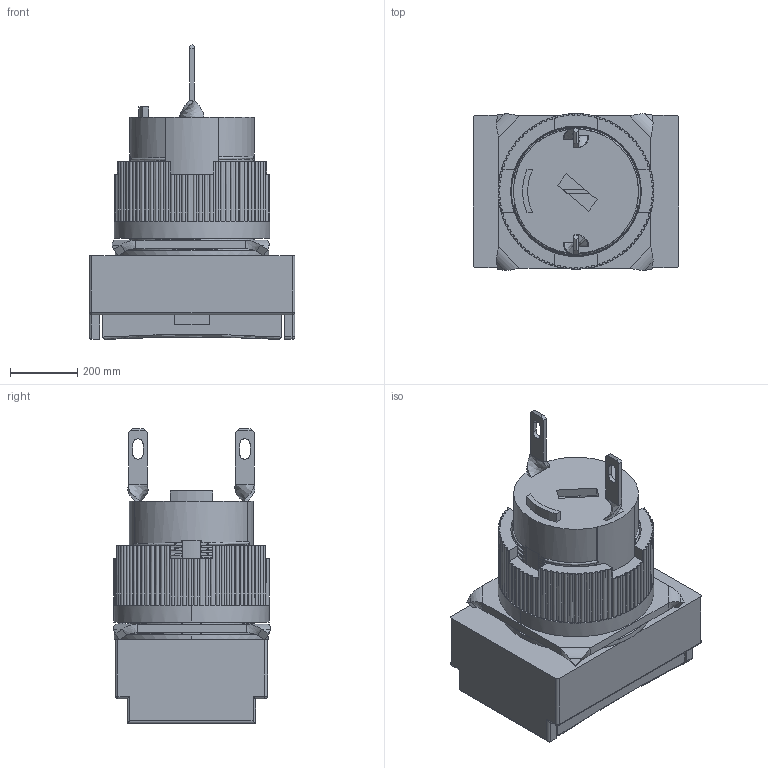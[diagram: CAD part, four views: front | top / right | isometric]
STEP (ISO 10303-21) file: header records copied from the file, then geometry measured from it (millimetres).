
FILE_DESCRIPTION((''),'2;1');
FILE_NAME('ASM0003_ASM','2016-06-03T',('Administrator'),(''),'PRO/ENGINEER BY PARAMETRIC TECHNOLOGY CORPORATION, 2012360','PRO/ENGINEER BY PARAMETRIC TECHNOLOGY CORPORATION, 2012360','');
FILE_SCHEMA(('CONFIG_CONTROL_DESIGN'));
Length unit declared in the file: inch
Products named in the file (1): ASM0003_ASM
Bounding box: 609.6 x 465.82 x 875.77 mm (x, y, z)
Volume: 120183781.4 mm3; surface area: 2993577.3 mm2
Topology: 1 solids, 1 shells, 722 faces, 1924 edges, 1231 vertices
Faces by surface type: cylinder 349, plane 280, bspline 85, sphere 6, torus 2
Entity records: 34571 total; most frequent: CARTESIAN_POINT 17233, ORIENTED_EDGE 3848, DIRECTION 3314, EDGE_CURVE 1924, VERTEX_POINT 1231, AXIS2_PLACEMENT_3D 1227, VECTOR 860, LINE 860
